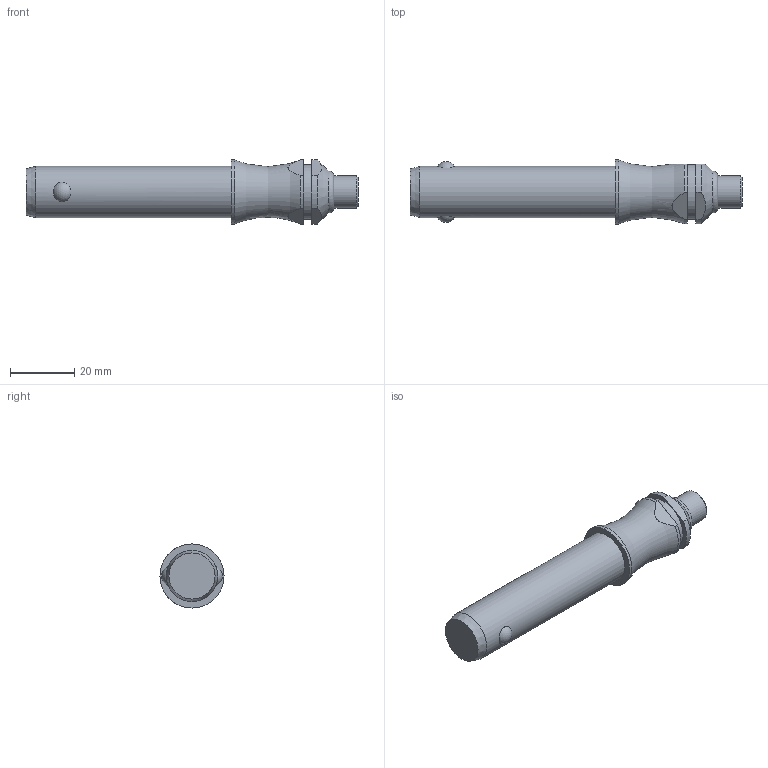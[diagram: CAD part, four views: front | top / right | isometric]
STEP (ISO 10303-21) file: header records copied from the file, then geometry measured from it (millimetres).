
FILE_DESCRIPTION( ( 'STEP AP203' ), '1' );
FILE_NAME( 'C:/Temp/Ganter_Step_05_03_2020/data/3_1/gn113_3/Stainless Steel-Ball lock pin GN 113.3-16-50 (deactivated).stp', '2020-03-12T08:18:53', ( 'License CC BY-ND 4.0' ), ( 'CADENAS' ), ' ', 'PARTsolutions', ' ' );
FILE_SCHEMA( ( 'CONFIG_CONTROL_DESIGN' ) );
Length unit declared in the file: millimetre
Products named in the file (1): _Stainless Steel-Ball lock pin GN 113.3-16-50 (deactivated)
Bounding box: 103.5 x 20 x 20 mm (x, y, z)
Volume: 20817.2 mm3; surface area: 5777.1 mm2
Topology: 1 solids, 1 shells, 28 faces, 60 edges, 39 vertices
Faces by surface type: plane 11, cylinder 10, cone 3, torus 2, sphere 2
Full cylindrical faces by diameter (mm): 10 x1, 16 x1, 17 x1, 20 x1
Entity records: 966 total; most frequent: CARTESIAN_POINT 350, DIRECTION 122, ORIENTED_EDGE 98, AXIS2_PLACEMENT_3D 52, EDGE_CURVE 49, EDGE_LOOP 42, VERTEX_POINT 38, FACE_OUTER_BOUND 34
